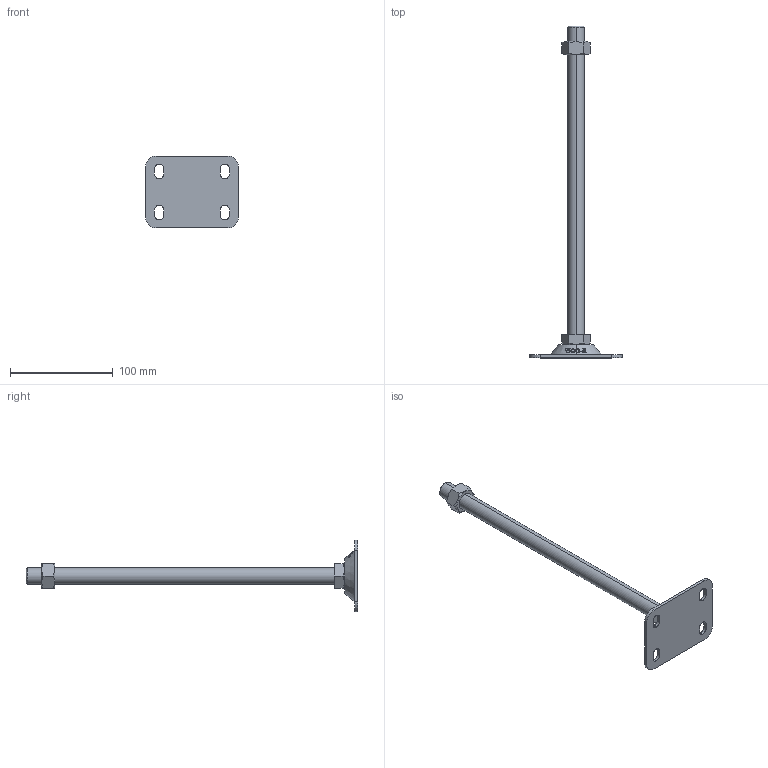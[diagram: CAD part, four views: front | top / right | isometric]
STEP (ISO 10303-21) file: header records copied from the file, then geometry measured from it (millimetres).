
FILE_DESCRIPTION (( 'STEP AP214' ), '1' );
FILE_NAME ('FABL7090-M16-300.step', '2021-03-28T23:52:06', ( '' ), ( '' ), 'SwSTEP 2.0', 'SolidWorks 2019', '' );
FILE_SCHEMA (( 'AUTOMOTIVE_DESIGN' ));
Length unit declared in the file: millimetre
Products named in the file (2): FABL7090-M16-300
Bounding box: 90 x 323 x 70 mm (x, y, z)
Volume: 100346.1 mm3; surface area: 31879.8 mm2
Topology: 2 solids, 2 shells, 146 faces, 384 edges, 252 vertices
Faces by surface type: plane 58, cylinder 48, cone 22, bspline 18
Entity records: 6084 total; most frequent: CARTESIAN_POINT 2656, ORIENTED_EDGE 768, DIRECTION 582, EDGE_CURVE 384, VERTEX_POINT 252, AXIS2_PLACEMENT_3D 210, EDGE_LOOP 166, LINE 162
